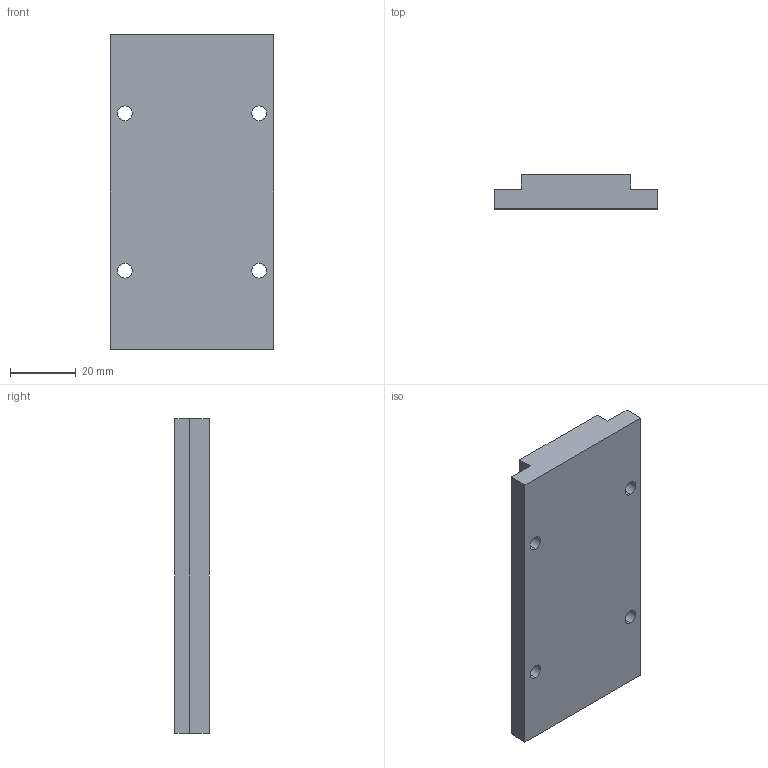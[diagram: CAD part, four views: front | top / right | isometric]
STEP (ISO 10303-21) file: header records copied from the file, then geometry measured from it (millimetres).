
FILE_DESCRIPTION (( 'STEP AP214' ), '1' );
FILE_NAME ('TLT-50-L96.STEP', '2022-04-13T09:08:05', ( 'Microsoft' ), ( 'Microsoft' ), 'SwSTEP 2.0', 'SolidWorks 2016', '' );
FILE_SCHEMA (( 'AUTOMOTIVE_DESIGN' ));
Length unit declared in the file: millimetre
Products named in the file (1): TLT-50-L96
Bounding box: 50 x 10.5 x 96 mm (x, y, z)
Volume: 42890.3 mm3; surface area: 12729.6 mm2
Topology: 1 solids, 1 shells, 18 faces, 48 edges, 32 vertices
Faces by surface type: plane 10, cylinder 8
Entity records: 618 total; most frequent: DIRECTION 102, CARTESIAN_POINT 99, ORIENTED_EDGE 96, EDGE_CURVE 48, AXIS2_PLACEMENT_3D 35, VERTEX_POINT 32, LINE 32, VECTOR 32
